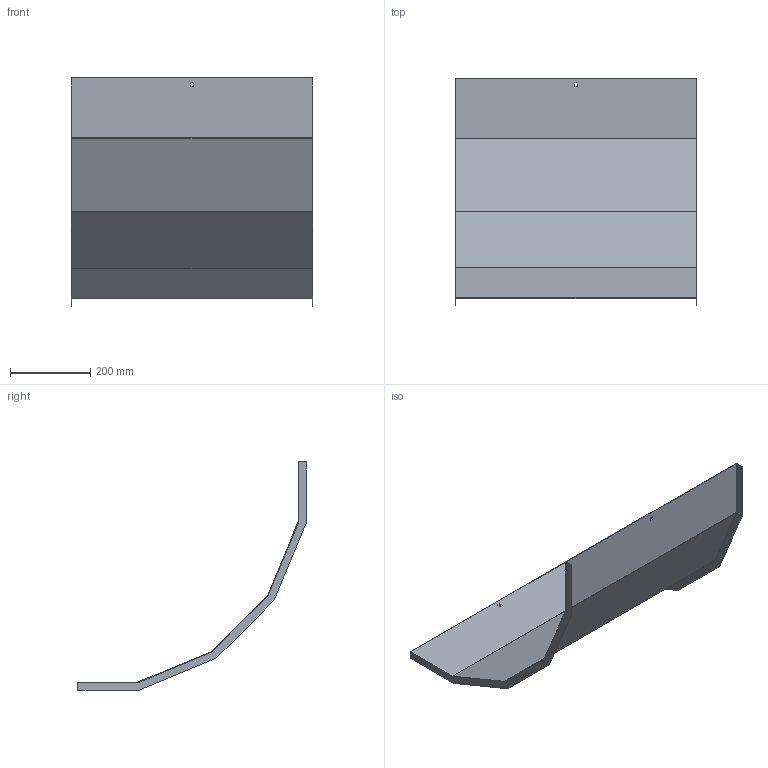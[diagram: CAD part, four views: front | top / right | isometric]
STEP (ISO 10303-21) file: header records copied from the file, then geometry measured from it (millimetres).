
FILE_DESCRIPTION (( 'STEP AP214' ), '1' );
FILE_NAME ('B2X30N5R600X.step', '2025-03-20T09:47:42', ( '' ), ( '' ), 'SwSTEP 2.0', 'SolidWorks 2023', '' );
FILE_SCHEMA (( 'AUTOMOTIVE_DESIGN' ));
Length unit declared in the file: millimetre
Products named in the file (1): B2X30N5R600X
Bounding box: 603 x 569.92 x 569.92 mm (x, y, z)
Volume: 861725.4 mm3; surface area: 1153759.2 mm2
Topology: 1 solids, 1 shells, 34 faces, 96 edges, 64 vertices
Faces by surface type: plane 34
Entity records: 1111 total; most frequent: CARTESIAN_POINT 195, ORIENTED_EDGE 192, DIRECTION 166, VECTOR 96, LINE 96, EDGE_CURVE 96, VERTEX_POINT 64, EDGE_LOOP 38
